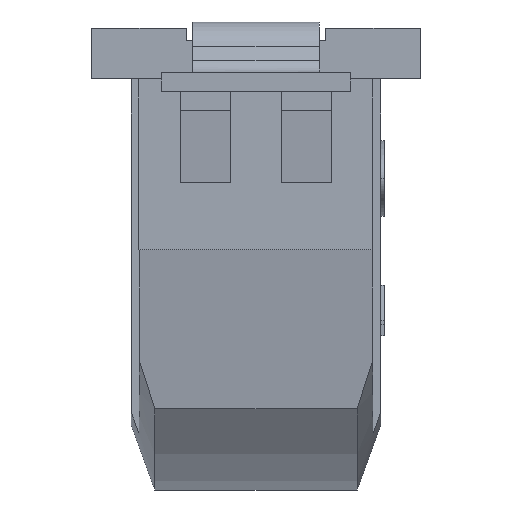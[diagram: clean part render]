
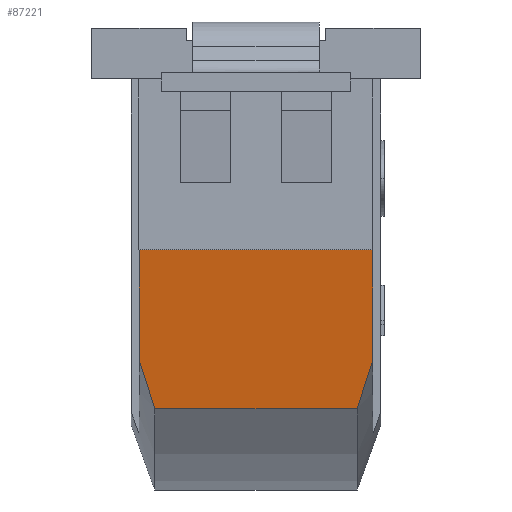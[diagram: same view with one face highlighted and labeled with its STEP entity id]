
A CAD part, front view. The second image highlights one B-rep face of the part: STEP entity #87221.
In plain terms, the highlighted planar face has unit normal (0, -0.99, -0.139).
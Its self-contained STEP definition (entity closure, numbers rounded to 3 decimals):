
#47736=CARTESIAN_POINT(' ',(-1.85,-4.5,-2.6));
#47741=DIRECTION(' ',(0.,0.139,-0.99));
#47746=VECTOR(' ',#47741,1.);
#47751=LINE('',#47736,#47746);
#47756=CARTESIAN_POINT(' ',(-1.85,-4.5,-2.6));
#47757=VERTEX_POINT(' ',#47756);
#47761=CARTESIAN_POINT(' ',(-1.85,-4.256,-4.339));
#47762=VERTEX_POINT(' ',#47761);
#47766=EDGE_CURVE(' ',#47757,#47762,#47751,.T.);
#48221=CARTESIAN_POINT(' ',(1.85,-4.5,-2.6));
#48226=DIRECTION(' ',(-1.,0.,0.));
#48231=VECTOR(' ',#48226,1.);
#48236=LINE('',#48221,#48231);
#48241=CARTESIAN_POINT(' ',(1.85,-4.5,-2.6));
#48242=VERTEX_POINT(' ',#48241);
#48246=EDGE_CURVE(' ',#48242,#47757,#48236,.T.);
#49781=CARTESIAN_POINT(' ',(1.85,-4.256,-4.339));
#49786=DIRECTION(' ',(0.,-0.139,0.99));
#49791=VECTOR(' ',#49786,1.);
#49796=LINE('',#49781,#49791);
#49801=CARTESIAN_POINT(' ',(1.85,-4.256,-4.339));
#49802=VERTEX_POINT(' ',#49801);
#49806=EDGE_CURVE(' ',#49802,#48242,#49796,.T.);
#51666=CARTESIAN_POINT(' ',(1.85,-4.256,-4.339));
#51671=DIRECTION(' ',(-0.303,0.133,-0.944));
#51676=VECTOR(' ',#51671,1.);
#51681=LINE('',#51666,#51676);
#51686=CARTESIAN_POINT(' ',(1.6,-4.146,-5.118));
#51687=VERTEX_POINT(' ',#51686);
#51691=EDGE_CURVE(' ',#49802,#51687,#51681,.T.);
#83126=CARTESIAN_POINT(' ',(-1.6,-4.146,-5.118));
#83127=VERTEX_POINT(' ',#83126);
#83141=CARTESIAN_POINT(' ',(-1.6,-4.146,-5.118));
#83146=DIRECTION(' ',(-0.303,-0.133,0.944));
#83151=VECTOR(' ',#83146,1.);
#83156=LINE('',#83141,#83151);
#83161=EDGE_CURVE(' ',#83127,#47762,#83156,.T.);
#87131=DIRECTION(' ',(-0.,-0.99,-0.139));
#87136=CARTESIAN_POINT(' ',(-1.85,-4.146,-5.118));
#87141=DIRECTION(' ',(1.,0.,-0.));
#87146=AXIS2_PLACEMENT_3D(' ',#87136,#87131,#87141);
#87151=PLANE('',#87146);
#87156=ORIENTED_EDGE(' ',*,*,#49806,.T.);
#87161=ORIENTED_EDGE(' ',*,*,#48246,.T.);
#87166=ORIENTED_EDGE(' ',*,*,#47766,.T.);
#87171=ORIENTED_EDGE(' ',*,*,#83161,.F.);
#87176=CARTESIAN_POINT(' ',(1.6,-4.146,-5.118));
#87181=DIRECTION(' ',(-1.,0.,0.));
#87186=VECTOR(' ',#87181,1.);
#87191=LINE('',#87176,#87186);
#87196=EDGE_CURVE(' ',#51687,#83127,#87191,.T.);
#87201=ORIENTED_EDGE(' ',*,*,#87196,.F.);
#87206=ORIENTED_EDGE(' ',*,*,#51691,.F.);
#87211=EDGE_LOOP(' ',(#87156,#87161,#87166,#87171,#87201,#87206));
#87216=FACE_OUTER_BOUND(' ',#87211,.T.);
#87221=ADVANCED_FACE('',(#87216),#87151,.T.);
